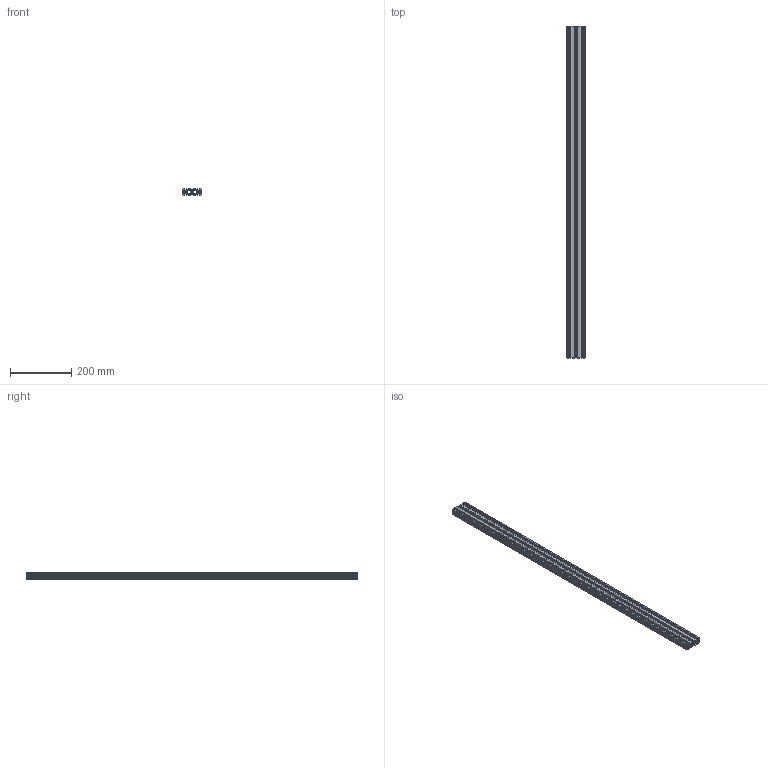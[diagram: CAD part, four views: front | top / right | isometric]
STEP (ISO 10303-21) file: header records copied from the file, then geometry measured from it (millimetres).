
FILE_DESCRIPTION(/* description */ ('CAx-IF Rec.Pracs.---Representation and Presentation of Product Manufacturing Information (PMI)---4.0---2014-10-13','CAx-IF Rec.Pracs.---3D Tessellated Geometry---0.4---2014-09-14','2;1'),/* implementation_level */ '2;1');
FILE_NAME(/* name */ '2060L-1080_stp',/* time_stamp */ '2026-06-16T14:36:10+08:00',/* author */ (''),/* organization */ (''),/* preprocessor_version */ 'ST-DEVELOPER v18.101',/* originating_system */ 'SIEMENS PLM Software NX 2007',/* authorisation */ $);
FILE_SCHEMA (('AP242_MANAGED_MODEL_BASED_3D_ENGINEERING_MIM_LF { 1 0 10303 442 3 1 4 }'));
Length unit declared in the file: millimetre
Products named in the file (1): 2060L-1080_stp
Bounding box: 60 x 1080 x 20 mm (x, y, z)
Volume: 457606.2 mm3; surface area: 488733.7 mm2
Topology: 1 solids, 1 shells, 183 faces, 543 edges, 362 vertices
Faces by surface type: plane 142, cylinder 41
Full cylindrical faces by diameter (mm): 5 x3
Entity records: 6238 total; most frequent: CARTESIAN_POINT 1110, ORIENTED_EDGE 1080, DIRECTION 1022, EDGE_CURVE 540, LINE 458, VECTOR 458, VERTEX_POINT 362, AXIS2_PLACEMENT_3D 282
